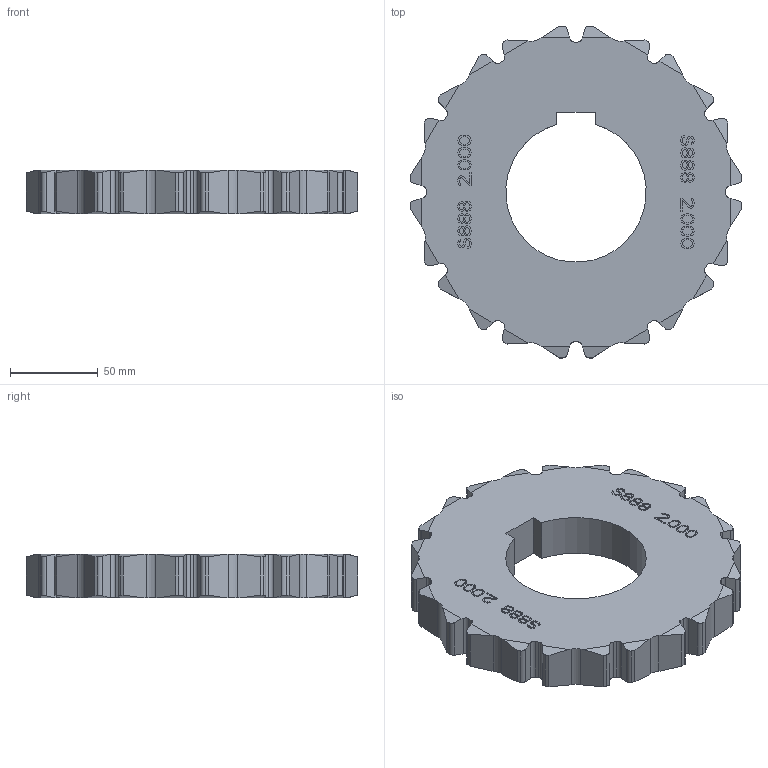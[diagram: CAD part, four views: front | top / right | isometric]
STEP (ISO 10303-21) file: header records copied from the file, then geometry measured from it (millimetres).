
FILE_DESCRIPTION((''),'2;1');
FILE_NAME('S888_12T_RND','2017-06-27T',('rklein'),('INTRALOX'),'CREO PARAMETRIC BY PTC INC, 2014500','CREO PARAMETRIC BY PTC INC, 2014500','');
FILE_SCHEMA(('CONFIG_CONTROL_DESIGN'));
Length unit declared in the file: inch
Products named in the file (1): S888_12T_RND
Bounding box: 189.08 x 189.08 x 24.89 mm (x, y, z)
Volume: 520709 mm3; surface area: 66763.9 mm2
Topology: 1 solids, 1 shells, 1934 faces, 5580 edges, 3720 vertices
Faces by surface type: plane 1873, cylinder 61
Entity records: 62338 total; most frequent: CARTESIAN_POINT 11426, ORIENTED_EDGE 11160, DIRECTION 9474, EDGE_CURVE 5580, VECTOR 5458, LINE 5458, VERTEX_POINT 3720, AXIS2_PLACEMENT_3D 2008
